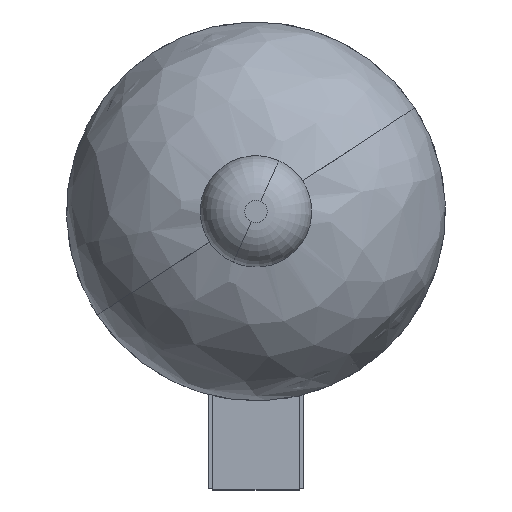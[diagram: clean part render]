
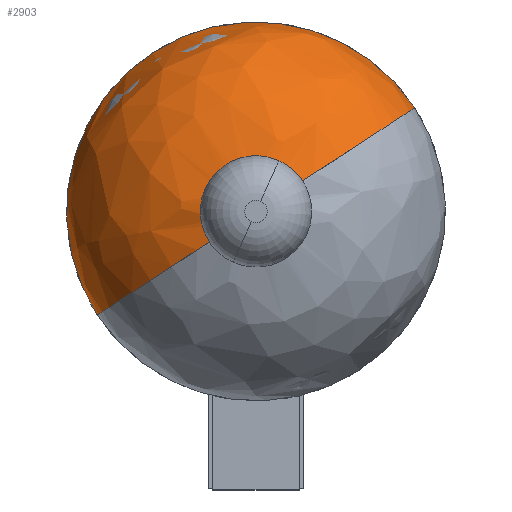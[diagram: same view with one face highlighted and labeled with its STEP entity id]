
A CAD part, front view. The second image highlights one B-rep face of the part: STEP entity #2903.
In plain terms, the highlighted free-form (B-spline) face has degree [3, 3] with [4, 4] control points.
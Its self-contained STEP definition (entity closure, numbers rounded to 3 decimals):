
#125 = CARTESIAN_POINT ( 'NONE',  ( -194.451, -26.762, 187.719 ) ) ;
#240 = AXIS2_PLACEMENT_3D ( 'NONE', #2010, #5182, #1530 ) ;
#501 =( BOUNDED_CURVE ( )  B_SPLINE_CURVE ( 3, ( #3348, #6579, #4503, #6642 ),
 .UNSPECIFIED., .F., .F. ) 
 B_SPLINE_CURVE_WITH_KNOTS ( ( 4, 4 ),
 ( 1.76, 3.142 ),
 .UNSPECIFIED. ) 
 CURVE ( )  GEOMETRIC_REPRESENTATION_ITEM ( )  RATIONAL_B_SPLINE_CURVE ( ( 1., 0.847, 0.847, 1. ) ) 
 REPRESENTATION_ITEM ( '' )  );
#514 = CARTESIAN_POINT ( 'NONE',  ( -16.92, -60.537, 100.634 ) ) ;
#591 = CARTESIAN_POINT ( 'NONE',  ( -194.451, 8.457, 187.719 ) ) ;
#656 = CARTESIAN_POINT ( 'NONE',  ( -101.476, -26.762, 45.396 ) ) ;
#781 = VERTEX_POINT ( 'NONE', #2329 ) ;
#1134 = VERTEX_POINT ( 'NONE', #4817 ) ;
#1150 = CARTESIAN_POINT ( 'NONE',  ( -43.71, -60.537, 83.133 ) ) ;
#1172 = ORIENTED_EDGE ( 'NONE', *, *, #5304, .T. ) ;
#1268 = CARTESIAN_POINT ( 'NONE',  ( -43.71, -60.537, 83.133 ) ) ;
#1530 = DIRECTION ( 'NONE',  ( 0.837, 0., 0.547 ) ) ;
#1594 = EDGE_LOOP ( 'NONE', ( #4696, #1172, #1609, #6634, #3320 ) ) ;
#1609 = ORIENTED_EDGE ( 'NONE', *, *, #6863, .T. ) ;
#1623 = CARTESIAN_POINT ( 'NONE',  ( 18.118, -53.908, 123.524 ) ) ;
#1650 = DIRECTION ( 'NONE',  ( 0.837, 0., 0.547 ) ) ;
#2010 = CARTESIAN_POINT ( 'NONE',  ( -30.315, 8.457, 91.884 ) ) ;
#2079 = FACE_OUTER_BOUND ( 'NONE', #1594, .T. ) ;
#2118 = CARTESIAN_POINT ( 'NONE',  ( -30.315, -60.537, 91.884 ) ) ;
#2329 = CARTESIAN_POINT ( 'NONE',  ( -101.476, 8.457, 45.396 ) ) ;
#2502 = VERTEX_POINT ( 'NONE', #4716 ) ;
#2514 = CARTESIAN_POINT ( 'NONE',  ( -16.92, -60.537, 100.634 ) ) ;
#2743 = CARTESIAN_POINT ( 'NONE',  ( -52.128, 8.457, 280.694 ) ) ;
#2771 = CARTESIAN_POINT ( 'NONE',  ( 40.847, -26.762, 138.371 ) ) ;
#2903 = ADVANCED_FACE ( 'NONE', ( #2079 ), #6433, .T. ) ;
#3069 = VERTEX_POINT ( 'NONE', #1268 ) ;
#3218 = EDGE_CURVE ( 'NONE', #3069, #781, #501, .T. ) ;
#3320 = ORIENTED_EDGE ( 'NONE', *, *, #4836, .T. ) ;
#3348 = CARTESIAN_POINT ( 'NONE',  ( -43.71, -60.537, 83.133 ) ) ;
#3725 = EDGE_CURVE ( 'NONE', #1134, #3950, #5129, .T. ) ;
#3763 = CARTESIAN_POINT ( 'NONE',  ( -52.128, -26.762, 280.694 ) ) ;
#3829 = CARTESIAN_POINT ( 'NONE',  ( -45.161, -53.908, 220.389 ) ) ;
#3950 = VERTEX_POINT ( 'NONE', #6498 ) ;
#4247 = CARTESIAN_POINT ( 'NONE',  ( -34.421, -60.537, 127.425 ) ) ;
#4273 = CARTESIAN_POINT ( 'NONE',  ( -101.476, 8.457, 45.396 ) ) ;
#4331 = DIRECTION ( 'NONE',  ( 0., 1., 0. ) ) ;
#4366 = CARTESIAN_POINT ( 'NONE',  ( 40.847, 8.457, 138.371 ) ) ;
#4503 = CARTESIAN_POINT ( 'NONE',  ( -101.476, -26.762, 45.396 ) ) ;
#4588 = DIRECTION ( 'NONE',  ( 0., 1., 0. ) ) ;
#4696 = ORIENTED_EDGE ( 'NONE', *, *, #3218, .F. ) ;
#4716 = CARTESIAN_POINT ( 'NONE',  ( -39.065, -60.537, 105.279 ) ) ;
#4817 = CARTESIAN_POINT ( 'NONE',  ( -16.92, -60.537, 100.634 ) ) ;
#4836 = EDGE_CURVE ( 'NONE', #3950, #781, #5005, .T. ) ;
#5005 = CIRCLE ( 'NONE', #240, 85. ) ;
#5100 = CARTESIAN_POINT ( 'NONE',  ( -30.315, -60.537, 91.884 ) ) ;
#5129 =( BOUNDED_CURVE ( )  B_SPLINE_CURVE ( 3, ( #2514, #1623, #5360, #5333 ),
 .UNSPECIFIED., .F., .F. ) 
 B_SPLINE_CURVE_WITH_KNOTS ( ( 4, 4 ),
 ( 1.76, 3.142 ),
 .UNSPECIFIED. ) 
 CURVE ( )  GEOMETRIC_REPRESENTATION_ITEM ( )  RATIONAL_B_SPLINE_CURVE ( ( 1., 0.847, 0.847, 1. ) ) 
 REPRESENTATION_ITEM ( '' )  );
#5138 = CIRCLE ( 'NONE', #5386, 16. ) ;
#5182 = DIRECTION ( 'NONE',  ( 0., -1., 0. ) ) ;
#5304 = EDGE_CURVE ( 'NONE', #3069, #2502, #5786, .T. ) ;
#5333 = CARTESIAN_POINT ( 'NONE',  ( 40.847, 8.457, 138.371 ) ) ;
#5360 = CARTESIAN_POINT ( 'NONE',  ( 40.847, -26.762, 138.371 ) ) ;
#5373 = CARTESIAN_POINT ( 'NONE',  ( -142.027, -53.908, 157.11 ) ) ;
#5386 = AXIS2_PLACEMENT_3D ( 'NONE', #5100, #4588, #6657 ) ;
#5394 = CARTESIAN_POINT ( 'NONE',  ( -78.747, -53.908, 60.244 ) ) ;
#5578 = AXIS2_PLACEMENT_3D ( 'NONE', #2118, #4331, #1650 ) ;
#5726 = CARTESIAN_POINT ( 'NONE',  ( -61.211, -60.537, 109.923 ) ) ;
#5786 = CIRCLE ( 'NONE', #5578, 16. ) ;
#5943 = CARTESIAN_POINT ( 'NONE',  ( 18.118, -53.908, 123.524 ) ) ;
#6433 =( BOUNDED_SURFACE ( )  B_SPLINE_SURFACE ( 3, 3, ( 
 ( #514, #4247, #5726, #1150 ),
 ( #5943, #3829, #5373, #5394 ),
 ( #2771, #3763, #125, #656 ),
 ( #4366, #2743, #591, #4273 ) ),
 .UNSPECIFIED., .F., .F., .T. ) 
 B_SPLINE_SURFACE_WITH_KNOTS ( ( 4, 4 ),
 ( 4, 4 ),
 ( 0., 1. ),
 ( 0., 1. ),
 .UNSPECIFIED. ) 
 GEOMETRIC_REPRESENTATION_ITEM ( )  RATIONAL_B_SPLINE_SURFACE ( (
 ( 1., 0.333, 0.333, 1.),
 ( 0.847, 0.282, 0.282, 0.847),
 ( 0.847, 0.282, 0.282, 0.847),
 ( 1., 0.333, 0.333, 1.) ) ) 
 REPRESENTATION_ITEM ( '' )  SURFACE ( )  );
#6498 = CARTESIAN_POINT ( 'NONE',  ( 40.847, 8.457, 138.371 ) ) ;
#6579 = CARTESIAN_POINT ( 'NONE',  ( -78.747, -53.908, 60.244 ) ) ;
#6634 = ORIENTED_EDGE ( 'NONE', *, *, #3725, .T. ) ;
#6642 = CARTESIAN_POINT ( 'NONE',  ( -101.476, 8.457, 45.396 ) ) ;
#6657 = DIRECTION ( 'NONE',  ( 0.837, 0., 0.547 ) ) ;
#6863 = EDGE_CURVE ( 'NONE', #2502, #1134, #5138, .T. ) ;
